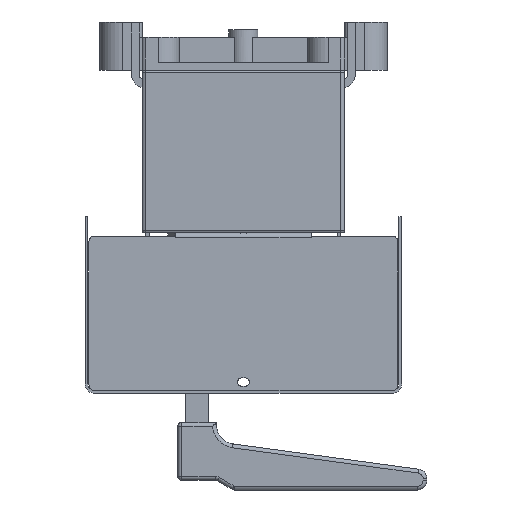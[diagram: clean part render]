
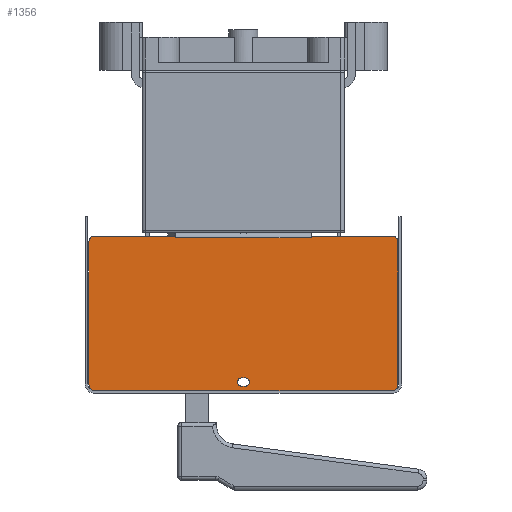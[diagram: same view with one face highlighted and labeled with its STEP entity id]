
A CAD part, left-side view. The second image highlights one B-rep face of the part: STEP entity #1356.
In plain terms, the highlighted planar face has unit normal (-1, 0, 0).
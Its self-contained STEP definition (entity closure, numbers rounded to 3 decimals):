
#188=FACE_BOUND('',#4244,.T.);
#189=FACE_BOUND('',#4245,.T.);
#1356=ADVANCED_FACE('',(#188,#189),#2234,.T.);
#2234=PLANE('',#21717);
#4244=EDGE_LOOP('',(#9063,#9064,#9065,#9066,#9067,#9068,#9069,#9070,#9071,
#9072,#9073,#9074,#9075,#9076));
#4245=EDGE_LOOP('',(#9077,#9078,#9079,#9080));
#5229=CIRCLE('',#21695,2.1);
#5231=CIRCLE('',#21699,2.1);
#5233=CIRCLE('',#21703,3.);
#5235=CIRCLE('',#21706,3.);
#5237=CIRCLE('',#21710,3.);
#5239=CIRCLE('',#21714,3.);
#9063=ORIENTED_EDGE('',*,*,#15215,.F.);
#9064=ORIENTED_EDGE('',*,*,#15216,.T.);
#9065=ORIENTED_EDGE('',*,*,#15217,.T.);
#9066=ORIENTED_EDGE('',*,*,#15218,.T.);
#9067=ORIENTED_EDGE('',*,*,#15219,.F.);
#9068=ORIENTED_EDGE('',*,*,#15207,.T.);
#9069=ORIENTED_EDGE('',*,*,#15212,.T.);
#9070=ORIENTED_EDGE('',*,*,#15195,.T.);
#9071=ORIENTED_EDGE('',*,*,#15198,.T.);
#9072=ORIENTED_EDGE('',*,*,#15173,.T.);
#9073=ORIENTED_EDGE('',*,*,#15201,.T.);
#9074=ORIENTED_EDGE('',*,*,#15204,.T.);
#9075=ORIENTED_EDGE('',*,*,#15206,.T.);
#9076=ORIENTED_EDGE('',*,*,#15181,.T.);
#9077=ORIENTED_EDGE('',*,*,#15185,.T.);
#9078=ORIENTED_EDGE('',*,*,#15189,.T.);
#9079=ORIENTED_EDGE('',*,*,#15192,.T.);
#9080=ORIENTED_EDGE('',*,*,#15214,.T.);
#12328=VERTEX_POINT('',#30793);
#12373=VERTEX_POINT('',#30890);
#12657=VERTEX_POINT('',#31981);
#12658=VERTEX_POINT('',#31983);
#12661=VERTEX_POINT('',#31990);
#12662=VERTEX_POINT('',#31992);
#12664=VERTEX_POINT('',#31998);
#12666=VERTEX_POINT('',#32004);
#12669=VERTEX_POINT('',#32011);
#12670=VERTEX_POINT('',#32013);
#12672=VERTEX_POINT('',#32022);
#12674=VERTEX_POINT('',#32028);
#12675=VERTEX_POINT('',#32035);
#12676=VERTEX_POINT('',#32036);
#12679=VERTEX_POINT('',#32050);
#12680=VERTEX_POINT('',#32052);
#12681=VERTEX_POINT('',#32054);
#12682=VERTEX_POINT('',#32056);
#15173=EDGE_CURVE('',#12328,#12373,#17704,.T.);
#15181=EDGE_CURVE('',#12658,#12657,#17711,.T.);
#15185=EDGE_CURVE('',#12662,#12661,#5229,.T.);
#15189=EDGE_CURVE('',#12661,#12664,#17717,.T.);
#15192=EDGE_CURVE('',#12664,#12666,#5231,.T.);
#15195=EDGE_CURVE('',#12670,#12669,#17721,.T.);
#15198=EDGE_CURVE('',#12669,#12328,#5233,.T.);
#15201=EDGE_CURVE('',#12373,#12672,#5235,.T.);
#15204=EDGE_CURVE('',#12672,#12674,#17726,.T.);
#15206=EDGE_CURVE('',#12674,#12658,#5237,.T.);
#15207=EDGE_CURVE('',#12675,#12676,#17727,.T.);
#15212=EDGE_CURVE('',#12676,#12670,#5239,.T.);
#15214=EDGE_CURVE('',#12666,#12662,#17732,.T.);
#15215=EDGE_CURVE('',#12679,#12657,#17733,.T.);
#15216=EDGE_CURVE('',#12679,#12680,#17734,.T.);
#15217=EDGE_CURVE('',#12680,#12681,#17735,.T.);
#15218=EDGE_CURVE('',#12681,#12682,#17736,.T.);
#15219=EDGE_CURVE('',#12675,#12682,#17737,.T.);
#17704=LINE('',#31964,#19837);
#17711=LINE('',#31982,#19844);
#17717=LINE('',#31999,#19850);
#17721=LINE('',#32012,#19854);
#17726=LINE('',#32029,#19859);
#17727=LINE('',#32034,#19860);
#17732=LINE('',#32047,#19865);
#17733=LINE('',#32049,#19866);
#17734=LINE('',#32051,#19867);
#17735=LINE('',#32053,#19868);
#17736=LINE('',#32055,#19869);
#17737=LINE('',#32057,#19870);
#19837=VECTOR('',#25916,1.);
#19844=VECTOR('',#25929,1.);
#19850=VECTOR('',#25943,1.);
#19854=VECTOR('',#25955,1.);
#19859=VECTOR('',#25974,1.);
#19860=VECTOR('',#25983,1.);
#19865=VECTOR('',#25996,1.);
#19866=VECTOR('',#25999,1.);
#19867=VECTOR('',#26000,1.);
#19868=VECTOR('',#26001,1.);
#19869=VECTOR('',#26002,1.);
#19870=VECTOR('',#26003,1.);
#21695=AXIS2_PLACEMENT_3D('',#31991,#25936,#25937);
#21699=AXIS2_PLACEMENT_3D('',#32005,#25949,#25950);
#21703=AXIS2_PLACEMENT_3D('',#32017,#25961,#25962);
#21706=AXIS2_PLACEMENT_3D('',#32023,#25968,#25969);
#21710=AXIS2_PLACEMENT_3D('',#32032,#25979,#25980);
#21714=AXIS2_PLACEMENT_3D('',#32044,#25991,#25992);
#21717=AXIS2_PLACEMENT_3D('',#32058,#26004,#26005);
#25916=DIRECTION('',(0.,-1.,0.));
#25929=DIRECTION('',(0.,1.,0.));
#25936=DIRECTION('',(1.,0.,0.));
#25937=DIRECTION('',(0.,1.,0.));
#25943=DIRECTION('',(0.,-1.,0.));
#25949=DIRECTION('',(1.,0.,0.));
#25950=DIRECTION('',(0.,1.,0.));
#25955=DIRECTION('',(0.,0.,-1.));
#25961=DIRECTION('',(-1.,0.,0.));
#25962=DIRECTION('',(0.,1.,0.));
#25968=DIRECTION('',(-1.,0.,0.));
#25969=DIRECTION('',(0.,1.,0.));
#25974=DIRECTION('',(0.,0.,1.));
#25979=DIRECTION('',(-1.,0.,0.));
#25980=DIRECTION('',(0.,1.,0.));
#25983=DIRECTION('',(0.,1.,0.));
#25991=DIRECTION('',(-1.,0.,0.));
#25992=DIRECTION('',(0.,1.,0.));
#25996=DIRECTION('',(0.,1.,0.));
#25999=DIRECTION('',(0.,0.,1.));
#26000=DIRECTION('',(0.,1.,0.));
#26001=DIRECTION('',(0.,1.,0.));
#26002=DIRECTION('',(0.,1.,0.));
#26003=DIRECTION('',(0.,0.,-1.));
#26004=DIRECTION('',(-1.,0.,0.));
#26005=DIRECTION('',(0.,-1.,0.));
#30793=CARTESIAN_POINT('',(-189.3,77.,-165.8));
#30890=CARTESIAN_POINT('',(-189.3,-77.,-165.8));
#31964=CARTESIAN_POINT('',(-189.3,77.,-165.8));
#31981=CARTESIAN_POINT('',(-189.3,-35.002,-85.8));
#31982=CARTESIAN_POINT('',(-189.3,-77.,-85.8));
#31983=CARTESIAN_POINT('',(-189.3,-77.,-85.8));
#31990=CARTESIAN_POINT('',(-189.3,1.,-159.3));
#31991=CARTESIAN_POINT('',(-189.3,1.,-161.4));
#31992=CARTESIAN_POINT('',(-189.3,1.,-163.5));
#31998=CARTESIAN_POINT('',(-189.3,-1.,-159.3));
#31999=CARTESIAN_POINT('',(-189.3,1.,-159.3));
#32004=CARTESIAN_POINT('',(-189.3,-1.,-163.5));
#32005=CARTESIAN_POINT('',(-189.3,-1.,-161.4));
#32011=CARTESIAN_POINT('',(-189.3,80.,-162.8));
#32012=CARTESIAN_POINT('',(-189.3,80.,-88.8));
#32013=CARTESIAN_POINT('',(-189.3,80.,-88.8));
#32017=CARTESIAN_POINT('',(-189.3,77.,-162.8));
#32022=CARTESIAN_POINT('',(-189.3,-80.,-162.8));
#32023=CARTESIAN_POINT('',(-189.3,-77.,-162.8));
#32028=CARTESIAN_POINT('',(-189.3,-80.,-88.8));
#32029=CARTESIAN_POINT('',(-189.3,-80.,-162.8));
#32032=CARTESIAN_POINT('',(-189.3,-77.,-88.8));
#32034=CARTESIAN_POINT('',(-189.3,-77.,-85.8));
#32035=CARTESIAN_POINT('',(-189.3,35.002,-85.8));
#32036=CARTESIAN_POINT('',(-189.3,77.,-85.8));
#32044=CARTESIAN_POINT('',(-189.3,77.,-88.8));
#32047=CARTESIAN_POINT('',(-189.3,-1.,-163.5));
#32049=CARTESIAN_POINT('',(-189.3,-35.002,-162.8));
#32050=CARTESIAN_POINT('',(-189.3,-35.002,-86.8));
#32051=CARTESIAN_POINT('',(-189.3,77.,-86.8));
#32052=CARTESIAN_POINT('',(-189.3,-35.,-86.8));
#32053=CARTESIAN_POINT('',(-189.3,50.5,-86.8));
#32054=CARTESIAN_POINT('',(-189.3,35.,-86.8));
#32055=CARTESIAN_POINT('',(-189.3,77.,-86.8));
#32056=CARTESIAN_POINT('',(-189.3,35.002,-86.8));
#32057=CARTESIAN_POINT('',(-189.3,35.002,-162.8));
#32058=CARTESIAN_POINT('',(-189.3,77.,-162.8));
